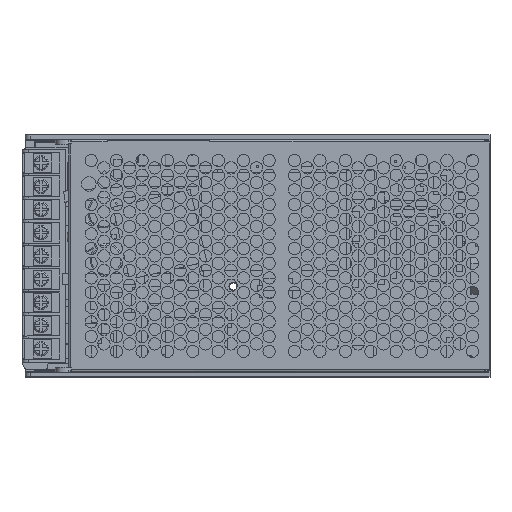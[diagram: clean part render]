
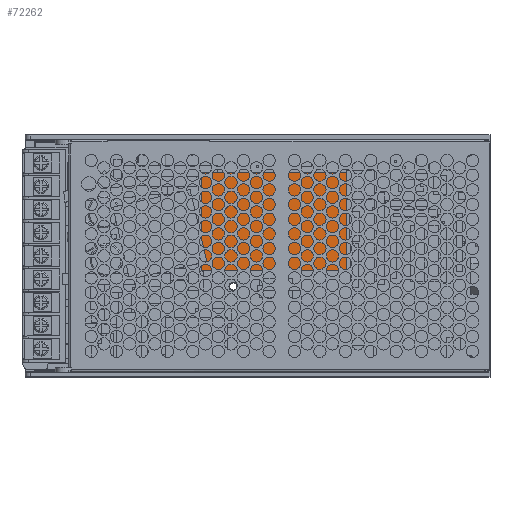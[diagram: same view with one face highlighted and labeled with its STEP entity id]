
A CAD part, top view. The second image highlights one B-rep face of the part: STEP entity #72262.
In plain terms, the highlighted planar face has unit normal (0, 0, 1).
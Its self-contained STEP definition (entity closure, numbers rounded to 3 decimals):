
#72159=DIRECTION('',(-1.,0.,0.));
#72160=VECTOR('',#72159,59.35);
#72161=CARTESIAN_POINT('',(-58.65,-55.601,27.6));
#72162=LINE('',#72161,#72160);
#72163=DIRECTION('',(0.,1.,0.));
#72164=VECTOR('',#72163,40.25);
#72165=CARTESIAN_POINT('',(-118.,-55.601,27.6));
#72166=LINE('',#72165,#72164);
#72167=DIRECTION('',(1.,0.,0.));
#72168=VECTOR('',#72167,59.35);
#72169=CARTESIAN_POINT('',(-118.,-15.351,27.6));
#72170=LINE('',#72169,#72168);
#72171=DIRECTION('',(0.,-1.,0.));
#72172=VECTOR('',#72171,40.25);
#72173=CARTESIAN_POINT('',(-58.65,-15.351,27.6));
#72174=LINE('',#72173,#72172);
#72183=CARTESIAN_POINT('',(-118.,-55.601,27.6));
#72184=VERTEX_POINT('',#72183);
#72185=CARTESIAN_POINT('',(-58.65,-55.601,27.6));
#72186=VERTEX_POINT('',#72185);
#72187=CARTESIAN_POINT('',(-118.,-15.351,27.6));
#72188=VERTEX_POINT('',#72187);
#72189=CARTESIAN_POINT('',(-58.65,-15.351,27.6));
#72190=VERTEX_POINT('',#72189);
#72251=CARTESIAN_POINT('',(-88.,-35.476,27.6));
#72252=DIRECTION('',(0.,0.,1.));
#72253=DIRECTION('',(1.,0.,0.));
#72254=AXIS2_PLACEMENT_3D('',#72251,#72252,#72253);
#72255=PLANE('',#72254);
#72256=ORIENTED_EDGE('',*,*,#72200,.T.);
#72257=ORIENTED_EDGE('',*,*,#72216,.T.);
#72258=ORIENTED_EDGE('',*,*,#72231,.T.);
#72259=ORIENTED_EDGE('',*,*,#72245,.T.);
#72260=EDGE_LOOP('',(#72256,#72257,#72258,#72259));
#72261=FACE_OUTER_BOUND('',#72260,.F.);
#72200=EDGE_CURVE('',#72186,#72184,#72162,.T.);
#72216=EDGE_CURVE('',#72184,#72188,#72166,.T.);
#72231=EDGE_CURVE('',#72188,#72190,#72170,.T.);
#72245=EDGE_CURVE('',#72190,#72186,#72174,.T.);
#72262=ADVANCED_FACE('',(#72261),#72255,.T.);
